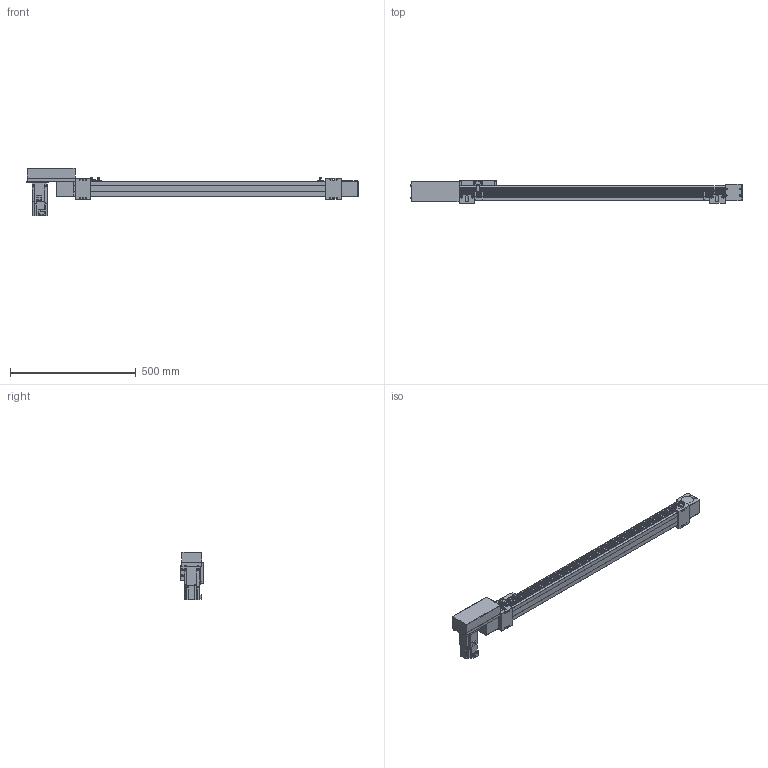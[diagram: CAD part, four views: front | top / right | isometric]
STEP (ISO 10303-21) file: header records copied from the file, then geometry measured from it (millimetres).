
FILE_DESCRIPTION(/* description */ ('STEP AP214'),/* implementation_level */ '2;1');
FILE_NAME(/* name */ 'SK60-P13-S900-R-T40-C1-N(0)',/* time_stamp */ '2023-04-06T04:27:08+02:00',/* author */ ('License CC BY-ND 4.0'),/* organization */ ('CADENAS'),/* preprocessor_version */ 'ST-DEVELOPER v19.3',/* originating_system */ 'PARTsolutions',/* authorisation */ ' ');
FILE_SCHEMA (('AUTOMOTIVE_DESIGN {1 0 10303 214 3 1 1}'));
Length unit declared in the file: millimetre
Products named in the file (10): SK60-P13-S900-R-T40-C1-N(0); PSC140-sensor; SK60-S450_seat; SK60-S450-BL-C1_slider; SK60_body3; SK60_body6; SK60-BL_body2; T40-p1; SK60-R_fb; SK60-S900-R-C1_body
Assembly tree (16 placements, depth 2):
  SK60-P13-S900-R-T40-C1-N(0)
    PSC140-sensor  x3
    SK60-S450_seat  x2
    SK60-S450-BL-C1_slider
    SK60_body3  x3
    SK60_body6  x2
    SK60-BL_body2  x2
    T40-p1
    SK60-R_fb
    SK60-S900-R-C1_body
Bounding box: 1320.5 x 90 x 189.7 mm (x, y, z)
Volume: 5267862.5 mm3; surface area: 662655.2 mm2
Topology: 16 solids, 16 shells, 810 faces, 2048 edges, 1349 vertices
Faces by surface type: plane 524, cylinder 262, cone 22, torus 2
Full cylindrical faces by diameter (mm): 2.8 x3, 3.3 x4, 4 x2, 4.5 x30, 4.6 x3, 4.917 x16, 5 x6, 5.478 x4, 5.5 x19, 6.5 x4, 7 x2, 8 x4, 8.5 x4, 9.988 x4, 10 x8, 14 x1, 47 x3, 50 x2
Entity records: 18655 total; most frequent: DIRECTION 3184, CARTESIAN_POINT 3150, ORIENTED_EDGE 2940, EDGE_CURVE 1470, AXIS2_PLACEMENT_3D 1068, LINE 1048, VECTOR 1048, VERTEX_POINT 1034
